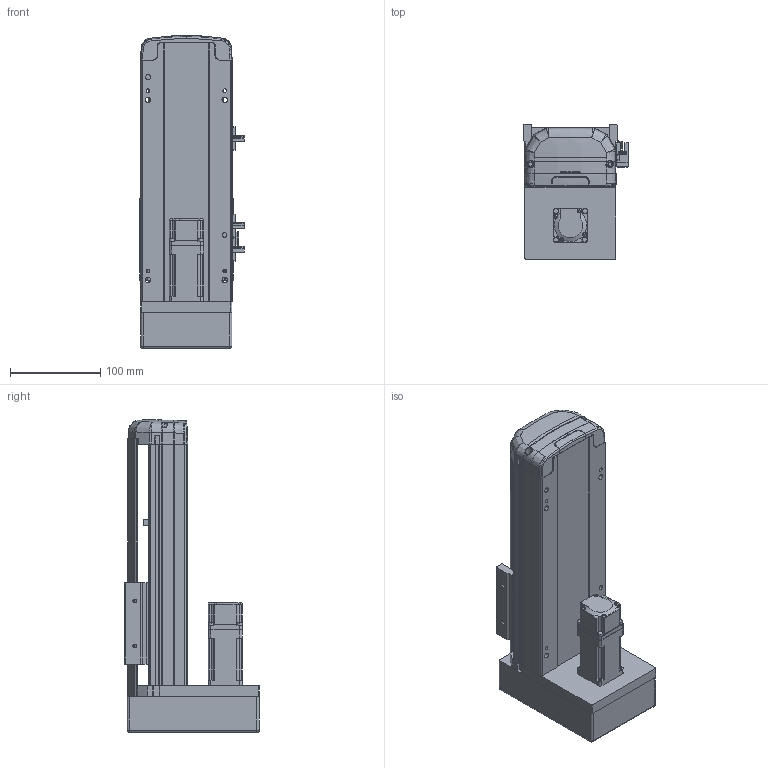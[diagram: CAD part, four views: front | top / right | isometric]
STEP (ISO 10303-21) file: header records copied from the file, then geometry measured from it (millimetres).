
FILE_DESCRIPTION (( 'STEP AP214' ), '1' );
FILE_NAME ('RTH10-XX-100-M-M10-C4.STEP', '2025-10-25T05:42:18', ( 'Microsoft' ), ( 'Microsoft' ), 'SwSTEP 2.0', 'SolidWorks 2018', '' );
FILE_SCHEMA (( 'AUTOMOTIVE_DESIGN' ));
Length unit declared in the file: millimetre
Products named in the file (10): N_RTH12-M-007P-奻裔^RTH10-XX-100-M-M10-C4; N_RTH12-M-018-裔赽^RTH10-XX-100-M-M10-C4; RTH10-XX-100-M-M10-C4; N_RTH12-M-008-萇儂啣^RTH10-XX-100-M-M10-C4; N_RTH12-M-011P-臏倰第菁釱^RTH10-XX-100-M-M10-C4; N_P10^RTH10-XX-100-M-M10-C4; N_OMRON EE-SX672 传感器^RTH10-XX-100-M-M10-C4; N_RTH12-GY-004-賑釱^RTH10-XX-100-M-M10-C4; N_RTH13-L-012覜茼え俋离^RTH10-XX-100-M-M10-C4; N_RTH12-GY-001P^RTH10-XX-100-M-M10-C4
Assembly tree (11 placements, depth 2):
  RTH10-XX-100-M-M10-C4
    N_RTH12-M-011P-臏倰第菁釱^RTH10-XX-100-M-M10-C4
    N_RTH13-L-012覜茼え俋离^RTH10-XX-100-M-M10-C4
    N_OMRON EE-SX672 传感器^RTH10-XX-100-M-M10-C4  x3
    N_P10^RTH10-XX-100-M-M10-C4
    N_RTH12-M-007P-奻裔^RTH10-XX-100-M-M10-C4
    N_RTH12-M-008-萇儂啣^RTH10-XX-100-M-M10-C4
    N_RTH12-M-018-裔赽^RTH10-XX-100-M-M10-C4
    N_RTH12-GY-004-賑釱^RTH10-XX-100-M-M10-C4
    N_RTH12-GY-001P^RTH10-XX-100-M-M10-C4
Bounding box: 116.5 x 149 x 347.31 mm (x, y, z)
Volume: 2110469.1 mm3; surface area: 330582.9 mm2
Topology: 10 solids, 12 shells, 1873 faces, 5197 edges, 3407 vertices
Faces by surface type: plane 943, bspline 472, cylinder 423, cone 29, sphere 4, torus 2
Entity records: 55677 total; most frequent: CARTESIAN_POINT 22507, ORIENTED_EDGE 7466, DIRECTION 5655, EDGE_CURVE 3739, VERTEX_POINT 2451, LINE 1993, VECTOR 1993, AXIS2_PLACEMENT_3D 1831
